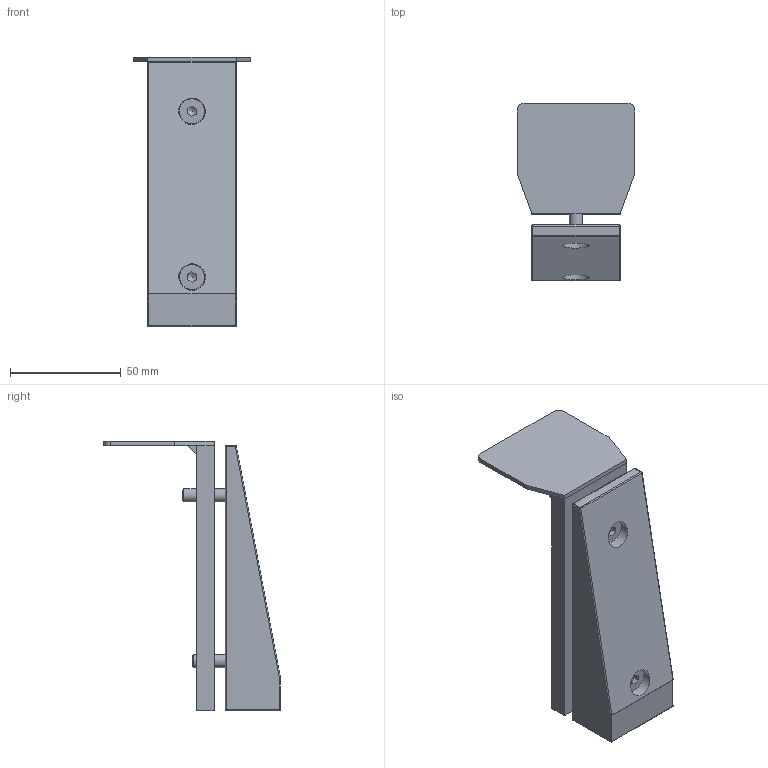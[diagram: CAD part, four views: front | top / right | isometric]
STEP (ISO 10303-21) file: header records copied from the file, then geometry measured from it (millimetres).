
FILE_DESCRIPTION(/* description */ ('Auflaufkeil Nr.3'),/* implementation_level */ '2;1');
FILE_NAME(/* name */ 'Q:\sge-ma\Produktmanagement-STB\STB\Workspace\stp\010337825.stp',/* time_stamp */ '2015-06-01T10:05:38+02:00',/* author */ ('avschreier'),/* organization */ (''),/* preprocessor_version */ 'ST-DEVELOPER v15.6',/* originating_system */ 'Autodesk Inventor 2015',/* authorisation */ '');
FILE_SCHEMA (('CONFIG_CONTROL_DESIGN'));
Length unit declared in the file: millimetre
Products named in the file (7): 010337825_Schweißnähte; 337000313; 337000312; 010337822; DIN_7991-M6x25_en; DIN_7991-M6x35_en; 010337825
Bounding box: 53 x 80 x 122 mm (x, y, z)
Volume: 103652.2 mm3; surface area: 36427.4 mm2
Topology: 7 solids, 7 shells, 103 faces, 230 edges, 133 vertices
Faces by surface type: plane 57, cylinder 28, sphere 10, cone 8
Full cylindrical faces by diameter (mm): 4.917 x2, 6 x4, 11.34 x2, 12 x2
Entity records: 2783 total; most frequent: DIRECTION 477, CARTESIAN_POINT 469, ORIENTED_EDGE 398, EDGE_CURVE 199, AXIS2_PLACEMENT_3D 174, EDGE_LOOP 131, VERTEX_POINT 130, LINE 129
